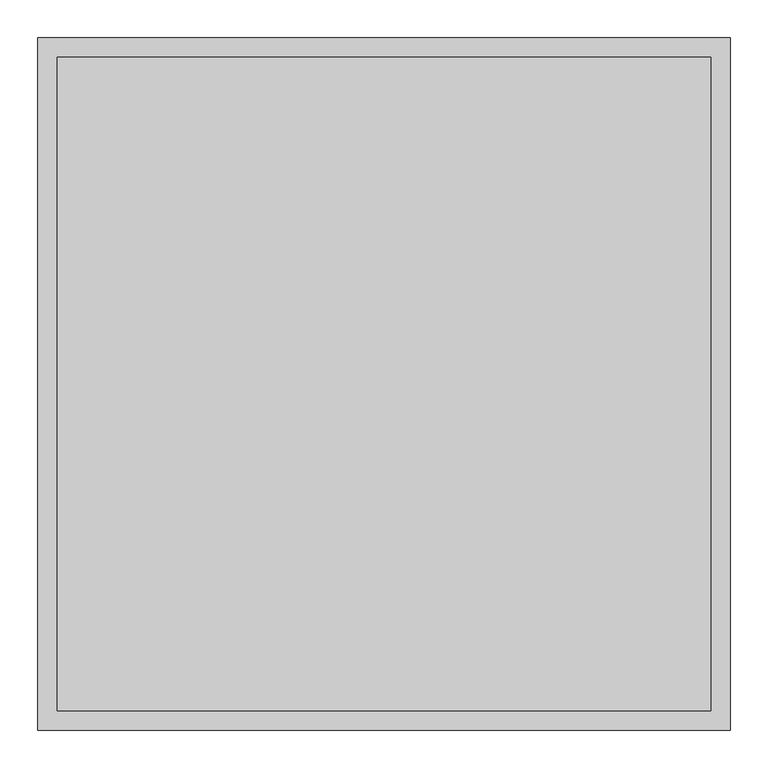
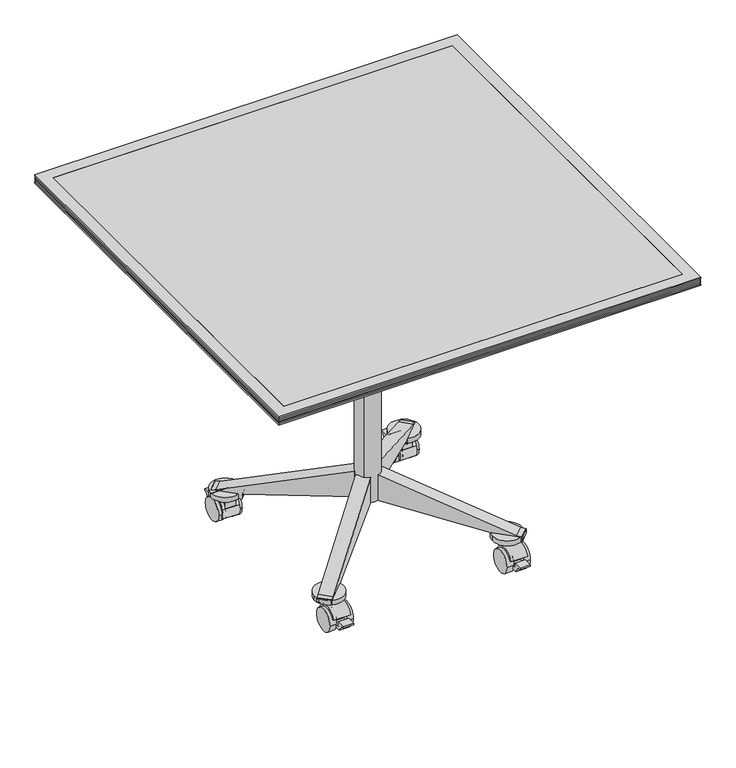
"""IFC4 building model written with IfcOpenShell, lengths in millimetres: furniture geometry, Coalesse_AM_Table_Conference_Ballet_Square : 36L x 36W - Fixed/Caster."""

import ifcopenshell
import ifcopenshell.guid

model = None  # the IFC model being written
_history = None  # IfcOwnerHistory: only IFC2X3 demands one
_inside = {}  # id of a spatial element -> (the spatial element, [elements in it])
_under = {}  # id of a project, library or spatial element -> (it, [spatial elements below it])
_declared = {}  # id of a project -> (the project, [libraries it declares])
_typed = {}  # id of a type object -> (the type object, [elements of that type])
_made_of = {}  # id of a material, layer set ... -> (it, [elements and type objects made of it])


def new_model(schema):
    """Start an empty IFC model of exactly this schema.

    Asked for "IFC4X3", IfcOpenShell would pick the latest addendum, in which some entities
    have other attributes; the version numbers below select the first issue.
    IFC2X3 requires an IfcOwnerHistory on every rooted entity: one is made here for all.
    """
    global model, _history
    if schema == "IFC4X3":
        model = ifcopenshell.file(schema_version=(4, 3, 0, 0))
    else:
        model = ifcopenshell.file(schema=schema)
    _inside.clear()
    _under.clear()
    _declared.clear()
    _typed.clear()
    _made_of.clear()
    _history = None
    if model.schema == "IFC2X3":
        org = make("IfcOrganization", Name="unknown")
        user = make(
            "IfcPersonAndOrganization",
            ThePerson=make("IfcPerson", FamilyName="unknown"),
            TheOrganization=org,
        )
        app = make(
            "IfcApplication",
            ApplicationDeveloper=org,
            Version="unknown",
            ApplicationFullName="unknown",
            ApplicationIdentifier="unknown",
        )
        _history = make(
            "IfcOwnerHistory",
            OwningUser=user,
            OwningApplication=app,
            ChangeAction="ADDED",
            CreationDate=0,
        )
    return model


def make(cls, **values):
    """One entity of the class cls with the attributes given. An attribute that is None is left unset."""
    return model.create_entity(
        cls, **{name: value for name, value in values.items() if value is not None}
    )


def rooted(cls, **values):
    """An entity with a GlobalId (a new one), such as an element, a storey or a relation."""
    return make(cls, GlobalId=ifcopenshell.guid.new(), OwnerHistory=_history, **values)


def si_unit(unit_type, name, prefix=None):
    """IfcSIUnit, for example si_unit("LENGTHUNIT", "METRE", prefix="MILLI")."""
    return make("IfcSIUnit", UnitType=unit_type, Prefix=prefix, Name=name)


def assignment(units):
    """IfcUnitAssignment: the units of a project."""
    return None if units is None else make("IfcUnitAssignment", Units=units)


def point(xyz):
    """IfcCartesianPoint."""
    return None if xyz is None else make("IfcCartesianPoint", Coordinates=xyz)


def direction(xyz):
    """IfcDirection."""
    return None if xyz is None else make("IfcDirection", DirectionRatios=xyz)


def frame(location, z_axis=None, x_axis=None):
    """IfcAxis2Placement3D, a coordinate frame: its origin and axes. An axis left out is left unset."""
    return make(
        "IfcAxis2Placement3D",
        Location=point(location),
        Axis=direction(z_axis),
        RefDirection=direction(x_axis),
    )


def frame_2d(location, x_axis=None):
    """IfcAxis2Placement2D, a coordinate frame in the plane: its origin and x axis."""
    return make(
        "IfcAxis2Placement2D", Location=point(location), RefDirection=direction(x_axis)
    )


def origin():
    """The frame at (0, 0, 0) with its axes left unset."""
    return frame((0.0, 0.0, 0.0))


def place(relative_to, where):
    """IfcLocalPlacement: puts the frame where relative to a parent placement (None: the world)."""
    return make(
        "IfcLocalPlacement", PlacementRelTo=relative_to, RelativePlacement=where
    )


def context(
    kind, dimensions, precision=None, world=None, true_north=None, identifier=None
):
    """IfcGeometricRepresentationContext, for example the 3D "Model" context."""
    return make(
        "IfcGeometricRepresentationContext",
        ContextIdentifier=identifier,
        ContextType=kind,
        CoordinateSpaceDimension=dimensions,
        Precision=precision,
        WorldCoordinateSystem=world,
        TrueNorth=true_north,
    )


def project(units=None, contexts=None):
    """IfcProject with its units and contexts."""
    return rooted(
        "IfcProject",
        Name="project",
        RepresentationContexts=contexts,
        UnitsInContext=assignment(units),
    )


def spatial(cls, under=None, at=None, **own):
    """A site, building, storey or space (cls), placed at a placement, below another one or the project."""
    s = rooted(cls, ObjectPlacement=at, **own)
    if under is not None:
        _under.setdefault(under.id(), (under, []))[1].append(s)
    return s


def polyline(points):
    """IfcPolyline through the points."""
    return make("IfcPolyline", Points=[point(p) for p in points])


def circle_curve(where, radius):
    """IfcCircle in the frame where."""
    return make("IfcCircle", Position=where, Radius=radius)


def trimmed(basis, trim1, trim2, sense, master):
    """IfcTrimmedCurve: the piece of a basis curve between two trims."""
    return make(
        "IfcTrimmedCurve",
        BasisCurve=basis,
        Trim1=trim1,
        Trim2=trim2,
        SenseAgreement=sense,
        MasterRepresentation=master,
    )


def segment(curve, same_sense, transition):
    """IfcCompositeCurveSegment."""
    return make(
        "IfcCompositeCurveSegment",
        Transition=transition,
        SameSense=same_sense,
        ParentCurve=curve,
    )


def composite_curve(segments, self_intersect=None):
    """IfcCompositeCurve: segments joined end to end."""
    return make("IfcCompositeCurve", Segments=segments, SelfIntersect=self_intersect)


def outline(outer, holes=None, kind="AREA"):
    """IfcArbitraryClosedProfileDef: a profile drawn as a closed curve; with holes, ...WithVoids."""
    if holes is None:
        return make("IfcArbitraryClosedProfileDef", ProfileType=kind, OuterCurve=outer)
    return make(
        "IfcArbitraryProfileDefWithVoids",
        ProfileType=kind,
        OuterCurve=outer,
        InnerCurves=holes,
    )


def extrude(swept, where, along, depth):
    """IfcExtrudedAreaSolid: the profile swept, set in the frame where, extruded along a direction by depth."""
    return make(
        "IfcExtrudedAreaSolid",
        SweptArea=swept,
        Position=where,
        ExtrudedDirection=direction(along),
        Depth=depth,
    )


def faces_of(points, faces, orient=None, outer=None):
    """IfcFace entities. A face is a list of loops; a loop is a list of indices into points, from 0.

    orient and outer hold one flag for each loop. By default every Orientation is true, the
    first loop of a face is its IfcFaceOuterBound and the others are IfcFaceBound.
    """
    made = []
    for i, loops in enumerate(faces):
        bounds = []
        for j, loop in enumerate(loops):
            is_outer = j == 0 if outer is None else outer[i][j]
            bounds.append(
                make(
                    "IfcFaceOuterBound" if is_outer else "IfcFaceBound",
                    Bound=make("IfcPolyLoop", Polygon=[points[k] for k in loop]),
                    Orientation=True if orient is None else orient[i][j],
                )
            )
        made.append(make("IfcFace", Bounds=bounds))
    return made


def faceted_brep(points, faces, orient=None, outer=None, voids=None):
    """IfcFacetedBrep: a solid bounded by flat faces; with voids (closed shells), ...WithVoids."""
    shared = [point(p) for p in points]
    hull = make("IfcClosedShell", CfsFaces=faces_of(shared, faces, orient, outer))
    if voids is None:
        return make("IfcFacetedBrep", Outer=hull)
    return make(
        "IfcFacetedBrepWithVoids",
        Outer=hull,
        Voids=[
            make(cls, CfsFaces=faces_of(shared, fs, o, b)) for cls, fs, o, b in voids
        ],
    )


def shape(context_of_items, identifier, shape_type, items):
    """IfcShapeRepresentation: the items that make up one representation, for example the "Body"."""
    return make(
        "IfcShapeRepresentation",
        ContextOfItems=context_of_items,
        RepresentationIdentifier=identifier,
        RepresentationType=shape_type,
        Items=items,
    )


def source(mapping_origin, context_of_items, identifier, shape_type, items):
    """IfcRepresentationMap: a shape defined once, which mapped items show again and again."""
    return make(
        "IfcRepresentationMap",
        MappingOrigin=mapping_origin,
        MappedRepresentation=shape(context_of_items, identifier, shape_type, items),
    )


def transform(
    local_origin,
    x_axis=None,
    y_axis=None,
    z_axis=None,
    scale=None,
    scale2=None,
    scale3=None,
    uniform=True,
):
    """IfcCartesianTransformationOperator3D, or its non-uniform kind. x_axis, y_axis, z_axis: its Axis1, 2, 3."""
    if uniform:
        return make(
            "IfcCartesianTransformationOperator3D",
            Axis1=direction(x_axis),
            Axis2=direction(y_axis),
            LocalOrigin=point(local_origin),
            Scale=scale,
            Axis3=direction(z_axis),
        )
    return make(
        "IfcCartesianTransformationOperator3DnonUniform",
        Axis1=direction(x_axis),
        Axis2=direction(y_axis),
        LocalOrigin=point(local_origin),
        Scale=scale,
        Axis3=direction(z_axis),
        Scale2=scale2,
        Scale3=scale3,
    )


def mapped(mapping_source, mapping_target):
    """IfcMappedItem: shows the shape of a source again, moved by a transform."""
    return make(
        "IfcMappedItem", MappingSource=mapping_source, MappingTarget=mapping_target
    )


def made_of(thing, what):
    """Note that an element or type object is made of a material, layer set ...; save() writes the relation."""
    if what is not None:
        _made_of.setdefault(what.id(), (what, []))[1].append(thing)
    return thing


def element(
    cls,
    number,
    at=None,
    inside=None,
    cuts=None,
    type_object=None,
    material=None,
    context=None,
    identifier="Body",
    shape_type=None,
    held_by="IfcProductDefinitionShape",
    body=None,
    shapes=None,
    **own,
):
    """One element of the class cls, such as IfcWall. Its Tag is "e" and its number.

    at: its placement. inside: the storey or other place that contains it. cuts: it is an
    opening in that element (IfcRelVoidsElement). A single representation is given by context,
    identifier, shape_type and body (its items); several are given by shapes. held_by: the class
    of the entity that holds the representations. save() writes the other relations.
    """
    e = rooted(cls, Tag="e%d" % number, ObjectPlacement=at, **own)
    if body is not None:
        shapes = [shape(context, identifier, shape_type, body)]
    if shapes is not None:
        e.Representation = make(held_by, Representations=shapes)
    if inside is not None:
        _inside.setdefault(inside.id(), (inside, []))[1].append(e)
    if cuts is not None:
        rooted(
            "IfcRelVoidsElement", RelatingBuildingElement=cuts, RelatedOpeningElement=e
        )
    if type_object is not None:
        _typed.setdefault(type_object.id(), (type_object, []))[1].append(e)
    return made_of(e, material)


def aggregate(whole, parts):
    """IfcRelAggregates: a whole, such as a stair, and the parts it consists of."""
    return rooted("IfcRelAggregates", RelatingObject=whole, RelatedObjects=parts)


def save(model, path):
    """Write the relations noted so far, then the file.

    IfcRelAggregates (storeys below a building ...), IfcRelContainedInSpatialStructure (elements
    in a storey), IfcRelDefinesByType, IfcRelAssociatesMaterial and IfcRelDeclares: one each for
    every whole, place, type object, material and project.
    """
    for whole, parts in _under.values():
        aggregate(whole, parts)
    for where, things in _inside.values():
        rooted(
            "IfcRelContainedInSpatialStructure",
            RelatedElements=things,
            RelatingStructure=where,
        )
    for kind, things in _typed.values():
        rooted("IfcRelDefinesByType", RelatedObjects=things, RelatingType=kind)
    for what, things in _made_of.values():
        rooted("IfcRelAssociatesMaterial", RelatedObjects=things, RelatingMaterial=what)
    for by, libraries in _declared.values():
        rooted("IfcRelDeclares", RelatingContext=by, RelatedDefinitions=libraries)
    model.write(path)


def furniture_688fecdd(model_context):
    return source(origin(), model_context, "Body", "SolidModel", [
        extrude(outline(composite_curve([segment(polyline([(-182.4395783, 14.7931869), (-185.3508649, 16.4051117)]), True, "CONTINUOUS"), segment(trimmed(circle_curve(frame_2d((-208.7663144, 24.9907393)), 24.9398531), [point((-185.3508649, 16.4051117))], [point((-231.2540436, 35.7749086))], True, "CARTESIAN"), True, "CONTINUOUS"), segment(polyline([(-231.2540436, 35.7749086), (-234.6796249, 36.8601197)]), True, "CONTINUOUS"), segment(trimmed(circle_curve(frame_2d((-209.4353674, 26.7032164)), 27.2109394), [point((-234.6796249, 36.8601197))], [point((-197.8152878, 51.3082762))], False, "CARTESIAN"), True, "CONTINUOUS"), segment(trimmed(circle_curve(frame_2d((-207.8788336, 25.8930561)), 27.3351124), [point((-197.8152878, 51.3082762))], [point((-182.4395783, 35.8956886))], False, "CARTESIAN"), True, "CONTINUOUS"), segment(trimmed(circle_curve(frame_2d((-209.2741105, 25.3444377)), 28.8343721), [point((-182.4395783, 35.8956886))], [point((-182.4395783, 14.7931869))], False, "CARTESIAN"), True, "CONTINUOUS")], self_intersect=False)), frame((174.0984431, 0.0, 0.0), z_axis=(1.0, 0.0, 0.0), x_axis=(0.0, 1.0, 0.0)), (0.0, 0.0, 1.0), 36.0286787),
        extrude(outline(composite_curve([segment(trimmed(circle_curve(frame_2d((-208.7663144, 24.9907393)), 24.9398531), [point((-233.7061675, 24.9907393))], [point((-183.8264612, 24.9907393))], False, "CARTESIAN"), True, "CONTINUOUS"), segment(trimmed(circle_curve(frame_2d((-208.7663144, 24.9907393)), 24.9398531), [point((-183.8264612, 24.9907393))], [point((-233.7061675, 24.9907393))], False, "CARTESIAN"), True, "CONTINUOUS")], self_intersect=False)), frame((166.2968952, 0.0, 0.0), z_axis=(1.0, 0.0, 0.0), x_axis=(0.0, 1.0, 0.0)), (0.0, 0.0, 1.0), 14.6120158),
        extrude(outline(composite_curve([segment(polyline([(-197.8152878, 63.5225277), (-182.4395783, 63.5225277), (-182.4395783, 35.8956886)]), True, "CONTINUOUS"), segment(trimmed(circle_curve(frame_2d((-209.2741105, 25.3444377)), 28.8343721), [point((-182.4395783, 35.8956886))], [point((-182.4395783, 14.7931869))], False, "CARTESIAN"), True, "CONTINUOUS"), segment(polyline([(-182.4395783, 14.7931869), (-195.904393, 22.2484025), (-198.9802659, 16.6930892)]), True, "CONTINUOUS"), segment(trimmed(circle_curve(frame_2d((-208.672695, 25.0010719)), 12.7658043), [point((-198.9802659, 16.6930892))], [point((-218.9375545, 17.4117096))], False, "CARTESIAN"), True, "CONTINUOUS"), segment(polyline([(-218.9375545, 17.4117096), (-244.706152, 17.4117096), (-253.6776476, 31.7691038), (-260.4030844, 31.7691038), (-260.4030844, 35.1210973), (-241.3530844, 35.1210973), (-241.3530844, 25.0010719), (-222.0637731, 25.0010719), (-219.8001714, 32.1463658), (-234.6796249, 36.8601197)]), True, "CONTINUOUS"), segment(trimmed(circle_curve(frame_2d((-209.4353674, 26.7032164)), 27.2109394), [point((-234.6796249, 36.8601197))], [point((-197.8152878, 51.3082762))], False, "CARTESIAN"), True, "CONTINUOUS"), segment(polyline([(-197.8152878, 51.3082762), (-197.8152878, 63.5225277)]), True, "CONTINUOUS")], self_intersect=False)), frame((179.2633359, 0.0, 0.0), z_axis=(1.0, 0.0, 0.0), x_axis=(0.0, 1.0, 0.0)), (0.0, 0.0, 1.0), 22.3970625),
        extrude(outline(composite_curve([segment(trimmed(circle_curve(frame_2d((-208.7663144, 24.9907393)), 24.9398531), [point((-233.7061675, 24.9907393))], [point((-183.8264612, 24.9907393))], False, "CARTESIAN"), True, "CONTINUOUS"), segment(trimmed(circle_curve(frame_2d((-208.7663144, 24.9907393)), 24.9398531), [point((-183.8264612, 24.9907393))], [point((-233.7061675, 24.9907393))], False, "CARTESIAN"), True, "CONTINUOUS")], self_intersect=False)), frame((203.3322938, 0.0, 0.0), z_axis=(1.0, 0.0, 0.0), x_axis=(0.0, 1.0, 0.0)), (0.0, 0.0, 1.0), 13.7103424),
        extrude(outline(composite_curve([segment(polyline([(-182.4395783, 14.7931869), (-185.3508649, 16.4051117)]), True, "CONTINUOUS"), segment(trimmed(circle_curve(frame_2d((-208.7663144, 24.9907393)), 24.9398531), [point((-185.3508649, 16.4051117))], [point((-231.2540436, 35.7749086))], True, "CARTESIAN"), True, "CONTINUOUS"), segment(polyline([(-231.2540436, 35.7749086), (-234.6796249, 36.8601197)]), True, "CONTINUOUS"), segment(trimmed(circle_curve(frame_2d((-209.4353674, 26.7032164)), 27.2109394), [point((-234.6796249, 36.8601197))], [point((-197.8152878, 51.3082762))], False, "CARTESIAN"), True, "CONTINUOUS"), segment(trimmed(circle_curve(frame_2d((-207.8788336, 25.8930561)), 27.3351124), [point((-197.8152878, 51.3082762))], [point((-182.4395783, 35.8956886))], False, "CARTESIAN"), True, "CONTINUOUS"), segment(trimmed(circle_curve(frame_2d((-209.2741105, 25.3444377)), 28.8343721), [point((-182.4395783, 35.8956886))], [point((-182.4395783, 14.7931869))], False, "CARTESIAN"), True, "CONTINUOUS")], self_intersect=False)), frame((-209.7070094, 0.0, 0.0), z_axis=(1.0, 0.0, 0.0), x_axis=(0.0, 1.0, 0.0)), (0.0, 0.0, 1.0), 36.86129),
        extrude(outline(composite_curve([segment(trimmed(circle_curve(frame_2d((-208.7663144, 24.9907393)), 24.9398531), [point((-233.7061675, 24.9907393))], [point((-183.8264612, 24.9907393))], False, "CARTESIAN"), True, "CONTINUOUS"), segment(trimmed(circle_curve(frame_2d((-208.7663144, 24.9907393)), 24.9398531), [point((-183.8264612, 24.9907393))], [point((-233.7061675, 24.9907393))], False, "CARTESIAN"), True, "CONTINUOUS")], self_intersect=False)), frame((-180.908911, 0.0, 0.0), z_axis=(1.0, 0.0, 0.0), x_axis=(0.0, 1.0, 0.0)), (0.0, 0.0, 1.0), 14.6120158),
        extrude(outline(composite_curve([segment(polyline([(-197.8152878, 63.5225277), (-182.4395783, 63.5225277), (-182.4395783, 35.8956886)]), True, "CONTINUOUS"), segment(trimmed(circle_curve(frame_2d((-209.2741105, 25.3444377)), 28.8343721), [point((-182.4395783, 35.8956886))], [point((-182.4395783, 14.7931869))], False, "CARTESIAN"), True, "CONTINUOUS"), segment(polyline([(-182.4395783, 14.7931869), (-195.904393, 22.2484025), (-198.9802659, 16.6930892)]), True, "CONTINUOUS"), segment(trimmed(circle_curve(frame_2d((-208.672695, 25.0010719)), 12.7658043), [point((-198.9802659, 16.6930892))], [point((-218.9375545, 17.4117096))], False, "CARTESIAN"), True, "CONTINUOUS"), segment(polyline([(-218.9375545, 17.4117096), (-244.706152, 17.4117096), (-253.6776476, 31.7691038), (-260.4030844, 31.7691038), (-260.4030844, 35.1210973), (-241.3530844, 35.1210973), (-241.3530844, 25.0010719), (-222.0637731, 25.0010719), (-219.8001714, 32.1463658), (-234.6796249, 36.8601197)]), True, "CONTINUOUS"), segment(trimmed(circle_curve(frame_2d((-209.4353674, 26.7032164)), 27.2109394), [point((-234.6796249, 36.8601197))], [point((-197.8152878, 51.3082762))], False, "CARTESIAN"), True, "CONTINUOUS"), segment(polyline([(-197.8152878, 51.3082762), (-197.8152878, 63.5225277)]), True, "CONTINUOUS")], self_intersect=False)), frame((-203.3322938, 0.0, 0.0), z_axis=(1.0, 0.0, 0.0), x_axis=(0.0, 1.0, 0.0)), (0.0, 0.0, 1.0), 22.4233828),
        extrude(outline(composite_curve([segment(trimmed(circle_curve(frame_2d((-208.7663144, 24.9907393)), 24.9398531), [point((-233.7061675, 24.9907393))], [point((-183.8264612, 24.9907393))], False, "CARTESIAN"), True, "CONTINUOUS"), segment(trimmed(circle_curve(frame_2d((-208.7663144, 24.9907393)), 24.9398531), [point((-183.8264612, 24.9907393))], [point((-233.7061675, 24.9907393))], False, "CARTESIAN"), True, "CONTINUOUS")], self_intersect=False)), frame((-217.0426362, 0.0, 0.0), z_axis=(1.0, 0.0, 0.0), x_axis=(0.0, 1.0, 0.0)), (0.0, 0.0, 1.0), 13.7103424),
        extrude(outline(composite_curve([segment(polyline([(-37.2834365, 26.9246599), (-26.8661847, 37.3419116)]), True, "CONTINUOUS"), segment(trimmed(circle_curve(frame_2d((0.0745836, 10.4011432)), 38.1), [point((-26.8661847, 37.3419116))], [point((27.015352, 37.3419116))], False, "CARTESIAN"), True, "CONTINUOUS"), segment(polyline([(27.015352, 37.3419116), (38.9313594, 25.4259042)]), True, "CONTINUOUS"), segment(trimmed(circle_curve(frame_2d((13.4893466, -0.0161085)), 35.9804395), [point((38.9313594, 25.4259042))], [point((38.9313594, -25.4581212))], False, "CARTESIAN"), True, "CONTINUOUS"), segment(polyline([(38.9313594, -25.4581212), (27.015352, -37.3741286)]), True, "CONTINUOUS"), segment(trimmed(circle_curve(frame_2d((0.0745836, -10.4333602)), 38.1), [point((27.015352, -37.3741286))], [point((-26.8661847, -37.3741286))], False, "CARTESIAN"), True, "CONTINUOUS"), segment(polyline([(-26.8661847, -37.3741286), (-37.2834365, -26.9568769)]), True, "CONTINUOUS"), segment(trimmed(circle_curve(frame_2d((-10.3426681, -0.0161085)), 38.1), [point((-37.2834365, -26.9568769))], [point((-37.2834365, 26.9246599))], False, "CARTESIAN"), True, "CONTINUOUS")], self_intersect=False)), frame((0.0, 0.0, 607.6784119), z_axis=(0.0, 0.0, 1.0), x_axis=(1.0, 0.0, 0.0)), (0.0, 0.0, 1.0), 50.3081696),
        extrude(outline(composite_curve([segment(polyline([(-81.1409418, 49.3084633), (-49.5692956, 80.8801095)]), True, "CONTINUOUS"), segment(trimmed(circle_curve(frame_2d((0.0, 156.1108358)), 90.0931587), [point((-49.5692956, 80.8801095))], [point((49.871233, 81.0799264))], True, "CARTESIAN"), True, "CONTINUOUS"), segment(polyline([(49.871233, 81.0799264), (81.1309866, 49.8201728)]), True, "CONTINUOUS"), segment(trimmed(circle_curve(frame_2d((153.3620811, 0.0)), 87.7461145), [point((81.1309866, 49.8201728))], [point((81.7629451, -50.7241989))], True, "CARTESIAN"), True, "CONTINUOUS"), segment(polyline([(81.7629451, -50.7241989), (50.5881651, -81.8989789)]), True, "CONTINUOUS"), segment(trimmed(circle_curve(frame_2d((0.0, -154.7295322)), 88.6761069), [point((50.5881651, -81.8989789))], [point((-51.0893198, -82.2496499))], True, "CARTESIAN"), True, "CONTINUOUS"), segment(polyline([(-51.0893198, -82.2496499), (-82.3248918, -51.014078)]), True, "CONTINUOUS"), segment(trimmed(circle_curve(frame_2d((-153.9959305, 0.0)), 87.9725749), [point((-82.3248918, -51.014078))], [point((-81.1409418, 49.3084633))], True, "CARTESIAN"), True, "CONTINUOUS")], self_intersect=False)), frame((0.0, 0.0, 635.3095602), z_axis=(0.0, 0.0, 1.0), x_axis=(1.0, 0.0, 0.0)), (0.0, 0.0, 1.0), 22.6770213),
        extrude(outline(composite_curve([segment(polyline([(113.5341679, 0.0), (115.2899262, -10.0922386)]), True, "CONTINUOUS"), segment(trimmed(circle_curve(frame_2d((109.4715659, -11.1181725)), 5.9081179), [point((115.2899262, -10.0922386))], [point((112.4302147, -16.2321))], False, "CARTESIAN"), True, "CONTINUOUS"), segment(trimmed(circle_curve(frame_2d((-123.0846109, 390.8475551)), 470.2989248), [point((112.4302147, -16.2321))], [point((-41.0580682, -72.2428518))], False, "CARTESIAN"), True, "CONTINUOUS"), segment(trimmed(circle_curve(frame_2d((-123.0846109, 390.8475551)), 470.2989248), [point((-41.0580682, -72.2428518))], [point((-66.3016738, -76.0108568))], False, "CARTESIAN"), True, "CONTINUOUS"), segment(trimmed(circle_curve(frame_2d((-64.5252058, -90.6166359)), 14.7134164), [point((-66.3016738, -76.0108568))], [point((-76.8966336, -82.6521903))], True, "CARTESIAN"), True, "CONTINUOUS"), segment(trimmed(circle_curve(frame_2d((-64.5252058, -90.6166359)), 14.7134164), [point((-76.8966336, -82.6521903))], [point((-79.0128702, -93.1841644))], True, "CARTESIAN"), True, "CONTINUOUS"), segment(trimmed(circle_curve(frame_2d((-82.4193718, -93.7878704)), 3.4595829), [point((-79.0128702, -93.1841644))], [point((-81.5814971, -97.144458))], False, "CARTESIAN"), True, "CONTINUOUS"), segment(polyline([(-81.5814971, -97.144458), (-160.8938241, -97.144458)]), True, "CONTINUOUS"), segment(trimmed(circle_curve(frame_2d((-160.0559494, -93.7878704)), 3.4595829), [point((-160.8938241, -97.144458))], [point((-163.462451, -93.1841644))], False, "CARTESIAN"), True, "CONTINUOUS"), segment(trimmed(circle_curve(frame_2d((-177.9501154, -90.6166359)), 14.7134164), [point((-163.462451, -93.1841644))], [point((-165.5786876, -82.6521903))], True, "CARTESIAN"), True, "CONTINUOUS"), segment(trimmed(circle_curve(frame_2d((-177.9501154, -90.6166359)), 14.7134164), [point((-165.5786876, -82.6521903))], [point((-176.1736474, -76.0108568))], True, "CARTESIAN"), True, "CONTINUOUS"), segment(trimmed(circle_curve(frame_2d((-119.3907103, 390.8475551)), 470.2989248), [point((-176.1736474, -76.0108568))], [point((-201.417253, -72.2428518))], False, "CARTESIAN"), True, "CONTINUOUS"), segment(trimmed(circle_curve(frame_2d((-119.3907103, 390.8475551)), 470.2989248), [point((-201.417253, -72.2428518))], [point((-354.9055359, -16.2321))], False, "CARTESIAN"), True, "CONTINUOUS"), segment(trimmed(circle_curve(frame_2d((-351.9468871, -11.1181725)), 5.9081179), [point((-354.9055359, -16.2321))], [point((-357.7652474, -10.0922386))], False, "CARTESIAN"), True, "CONTINUOUS"), segment(polyline([(-357.7652474, -10.0922386), (-355.9857135, 0.0679469), (-243.7205553, 0.0679469)]), True, "CONTINUOUS"), segment(trimmed(circle_curve(frame_2d((-184.2805603, 14.4713039)), 61.1601971), [point((-243.7205553, 0.0679469))], [point((-195.8898677, -45.5769575))], True, "CARTESIAN"), True, "CONTINUOUS"), segment(trimmed(circle_curve(frame_2d((-133.6508876, 282.6884214)), 334.1135281), [point((-195.8898677, -45.5769575))], [point((-152.1077021, -50.9149293))], True, "CARTESIAN"), True, "CONTINUOUS"), segment(trimmed(circle_curve(frame_2d((-151.5110625, -39.8460589)), 11.0849389), [point((-152.1077021, -50.9149293))], [point((-142.3165925, -46.0377945))], True, "CARTESIAN"), True, "CONTINUOUS"), segment(polyline([(-142.3165925, -46.0377945), (-100.193637, -46.0377945)]), True, "CONTINUOUS"), segment(trimmed(circle_curve(frame_2d((-91.0046411, -39.8584423)), 11.0734837), [point((-100.193637, -46.0377945))], [point((-90.2559551, -50.9065873))], True, "CARTESIAN"), True, "CONTINUOUS"), segment(trimmed(circle_curve(frame_2d((-108.7814051, 282.6895624)), 334.1101367), [point((-90.2559551, -50.9065873))], [point((-46.5723215, -45.5780317))], True, "CARTESIAN"), True, "CONTINUOUS"), segment(trimmed(circle_curve(frame_2d((-58.1722458, 14.4515716)), 61.1400975), [point((-46.5723215, -45.5780317))], [point((1.2353597, 0.0))], True, "CARTESIAN"), True, "CONTINUOUS"), segment(polyline([(1.2353597, 0.0), (113.5341679, 0.0)]), True, "CONTINUOUS")], self_intersect=False)), frame((-101.3833789, 70.072565, 704.85), z_axis=(0.7071067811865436, 0.7071067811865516, 0.0), x_axis=(-0.7071067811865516, 0.7071067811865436, 0.0)), (0.0, 0.0, 1.0), 44.2801776),
        extrude(outline(composite_curve([segment(polyline([(112.2651581, 0.0), (114.044692, -10.1601855)]), True, "CONTINUOUS"), segment(trimmed(circle_curve(frame_2d((108.2263318, -11.1861194)), 5.9081179), [point((114.044692, -10.1601855))], [point((111.1849806, -16.3000469))], False, "CARTESIAN"), True, "CONTINUOUS"), segment(trimmed(circle_curve(frame_2d((-124.3298451, 390.7796082)), 470.2989248), [point((111.1849806, -16.3000469))], [point((-42.3033023, -72.3107987))], False, "CARTESIAN"), True, "CONTINUOUS"), segment(trimmed(circle_curve(frame_2d((-124.3298451, 390.7796082)), 470.2989248), [point((-42.3033023, -72.3107987))], [point((-67.5469079, -76.0788037))], False, "CARTESIAN"), True, "CONTINUOUS"), segment(trimmed(circle_curve(frame_2d((-65.77044, -90.6845828)), 14.7134164), [point((-67.5469079, -76.0788037))], [point((-78.1418678, -82.7201372))], True, "CARTESIAN"), True, "CONTINUOUS"), segment(trimmed(circle_curve(frame_2d((-65.77044, -90.6845828)), 14.7134164), [point((-78.1418678, -82.7201372))], [point((-80.2581043, -93.2521113))], True, "CARTESIAN"), True, "CONTINUOUS"), segment(trimmed(circle_curve(frame_2d((-83.6646059, -93.8558173)), 3.4595829), [point((-80.2581043, -93.2521113))], [point((-82.8267313, -97.2124049))], False, "CARTESIAN"), True, "CONTINUOUS"), segment(polyline([(-82.8267313, -97.2124049), (-162.1390582, -97.2124049)]), True, "CONTINUOUS"), segment(trimmed(circle_curve(frame_2d((-161.3011835, -93.8558173)), 3.4595829), [point((-162.1390582, -97.2124049))], [point((-164.7076852, -93.2521113))], False, "CARTESIAN"), True, "CONTINUOUS"), segment(trimmed(circle_curve(frame_2d((-179.1953495, -90.6845828)), 14.7134164), [point((-164.7076852, -93.2521113))], [point((-166.8239217, -82.7201372))], True, "CARTESIAN"), True, "CONTINUOUS"), segment(trimmed(circle_curve(frame_2d((-179.1953495, -90.6845828)), 14.7134164), [point((-166.8239217, -82.7201372))], [point((-177.4188815, -76.0788037))], True, "CARTESIAN"), True, "CONTINUOUS"), segment(trimmed(circle_curve(frame_2d((-120.6359444, 390.7796082)), 470.2989248), [point((-177.4188815, -76.0788037))], [point((-202.6624871, -72.3107987))], False, "CARTESIAN"), True, "CONTINUOUS"), segment(trimmed(circle_curve(frame_2d((-120.6359444, 390.7796082)), 470.2989248), [point((-202.6624871, -72.3107987))], [point((-356.1507701, -16.3000469))], False, "CARTESIAN"), True, "CONTINUOUS"), segment(trimmed(circle_curve(frame_2d((-353.1921213, -11.1861194)), 5.9081179), [point((-356.1507701, -16.3000469))], [point((-359.0104815, -10.1601855))], False, "CARTESIAN"), True, "CONTINUOUS"), segment(polyline([(-359.0104815, -10.1601855), (-357.2547233, -0.0679469), (-244.955915, -0.0679469)]), True, "CONTINUOUS"), segment(trimmed(circle_curve(frame_2d((-185.5483095, 14.3836247)), 61.1400975), [point((-244.955915, -0.0679469))], [point((-197.1482338, -45.6459786))], True, "CARTESIAN"), True, "CONTINUOUS"), segment(trimmed(circle_curve(frame_2d((-134.9391503, 282.6216155)), 334.1101367), [point((-197.1482338, -45.6459786))], [point((-153.4646002, -50.9745342))], True, "CARTESIAN"), True, "CONTINUOUS"), segment(trimmed(circle_curve(frame_2d((-152.7159142, -39.9263892)), 11.0734837), [point((-153.4646002, -50.9745342))], [point((-143.5269184, -46.1057414))], True, "CARTESIAN"), True, "CONTINUOUS"), segment(polyline([(-143.5269184, -46.1057414), (-101.4039629, -46.1057414)]), True, "CONTINUOUS"), segment(trimmed(circle_curve(frame_2d((-92.2094928, -39.9140058)), 11.0849389), [point((-101.4039629, -46.1057414))], [point((-91.6128533, -50.9828762))], True, "CARTESIAN"), True, "CONTINUOUS"), segment(trimmed(circle_curve(frame_2d((-110.0696677, 282.6204745)), 334.1135281), [point((-91.6128533, -50.9828762))], [point((-47.8306877, -45.6449044))], True, "CARTESIAN"), True, "CONTINUOUS"), segment(trimmed(circle_curve(frame_2d((-59.4399951, 14.403357)), 61.1601971), [point((-47.8306877, -45.6449044))], [point((0.0, 0.0))], True, "CARTESIAN"), True, "CONTINUOUS"), segment(polyline([(0.0, 0.0), (112.2651581, 0.0)]), True, "CONTINUOUS")], self_intersect=False)), frame((-70.9530785, -102.2638924, 704.9179469), z_axis=(-0.707106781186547, 0.7071067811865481, 0.0), x_axis=(-0.7071067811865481, -0.707106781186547, 0.0)), (0.0, 0.0, 1.0), 44.2801776),
        extrude(outline(composite_curve([segment(trimmed(circle_curve(frame_2d((209.2741105, 25.3444377)), 28.8343721), [point((182.4395783, 14.7931869))], [point((182.4395783, 35.8956886))], False, "CARTESIAN"), True, "CONTINUOUS"), segment(trimmed(circle_curve(frame_2d((207.8788336, 25.8930561)), 27.3351124), [point((182.4395783, 35.8956886))], [point((197.8152878, 51.3082762))], False, "CARTESIAN"), True, "CONTINUOUS"), segment(trimmed(circle_curve(frame_2d((209.4353674, 26.7032164)), 27.2109394), [point((197.8152878, 51.3082762))], [point((234.6796249, 36.8601197))], False, "CARTESIAN"), True, "CONTINUOUS"), segment(polyline([(234.6796249, 36.8601197), (231.2540436, 35.7749086)]), True, "CONTINUOUS"), segment(trimmed(circle_curve(frame_2d((208.7663144, 24.9907393)), 24.9398531), [point((231.2540436, 35.7749086))], [point((185.3508649, 16.4051117))], True, "CARTESIAN"), True, "CONTINUOUS"), segment(polyline([(185.3508649, 16.4051117), (182.4395783, 14.7931869)]), True, "CONTINUOUS")], self_intersect=False)), frame((174.0984431, 0.0, 0.0), z_axis=(1.0, 0.0, 0.0), x_axis=(0.0, 1.0, 0.0)), (0.0, 0.0, 1.0), 36.0286787),
        extrude(outline(composite_curve([segment(trimmed(circle_curve(frame_2d((208.7663144, 24.9907393)), 24.9398531), [point((233.7061675, 24.9907393))], [point((183.8264612, 24.9907393))], False, "CARTESIAN"), True, "CONTINUOUS"), segment(trimmed(circle_curve(frame_2d((208.7663144, 24.9907393)), 24.9398531), [point((183.8264612, 24.9907393))], [point((233.7061675, 24.9907393))], False, "CARTESIAN"), True, "CONTINUOUS")], self_intersect=False)), frame((166.2968952, 0.0, 0.0), z_axis=(1.0, 0.0, 0.0), x_axis=(0.0, 1.0, 0.0)), (0.0, 0.0, 1.0), 14.6120158),
        extrude(outline(composite_curve([segment(polyline([(197.8152878, 63.5225277), (197.8152878, 51.3082762)]), True, "CONTINUOUS"), segment(trimmed(circle_curve(frame_2d((209.4353674, 26.7032164)), 27.2109394), [point((197.8152878, 51.3082762))], [point((234.6796249, 36.8601197))], False, "CARTESIAN"), True, "CONTINUOUS"), segment(polyline([(234.6796249, 36.8601197), (219.8001714, 32.1463658), (222.0637731, 25.0010719), (241.3530844, 25.0010719), (241.3530844, 35.1210973), (260.4030844, 35.1210973), (260.4030844, 31.7691038), (253.6776476, 31.7691038), (244.706152, 17.4117096), (218.9375545, 17.4117096)]), True, "CONTINUOUS"), segment(trimmed(circle_curve(frame_2d((208.672695, 25.0010719)), 12.7658043), [point((218.9375545, 17.4117096))], [point((198.9802659, 16.6930892))], False, "CARTESIAN"), True, "CONTINUOUS"), segment(polyline([(198.9802659, 16.6930892), (195.904393, 22.2484025), (182.4395783, 14.7931869)]), True, "CONTINUOUS"), segment(trimmed(circle_curve(frame_2d((209.2741105, 25.3444377)), 28.8343721), [point((182.4395783, 14.7931869))], [point((182.4395783, 35.8956886))], False, "CARTESIAN"), True, "CONTINUOUS"), segment(polyline([(182.4395783, 35.8956886), (182.4395783, 63.5225277), (197.8152878, 63.5225277)]), True, "CONTINUOUS")], self_intersect=False)), frame((179.2633359, 0.0, 0.0), z_axis=(1.0, 0.0, 0.0), x_axis=(0.0, 1.0, 0.0)), (0.0, 0.0, 1.0), 22.3970625),
        extrude(outline(composite_curve([segment(trimmed(circle_curve(frame_2d((208.7663144, 24.9907393)), 24.9398531), [point((233.7061675, 24.9907393))], [point((183.8264612, 24.9907393))], False, "CARTESIAN"), True, "CONTINUOUS"), segment(trimmed(circle_curve(frame_2d((208.7663144, 24.9907393)), 24.9398531), [point((183.8264612, 24.9907393))], [point((233.7061675, 24.9907393))], False, "CARTESIAN"), True, "CONTINUOUS")], self_intersect=False)), frame((203.3322938, 0.0, 0.0), z_axis=(1.0, 0.0, 0.0), x_axis=(0.0, 1.0, 0.0)), (0.0, 0.0, 1.0), 13.7103424),
        extrude(outline(composite_curve([segment(trimmed(circle_curve(frame_2d((209.2741105, 25.3444377)), 28.8343721), [point((182.4395783, 14.7931869))], [point((182.4395783, 35.8956886))], False, "CARTESIAN"), True, "CONTINUOUS"), segment(trimmed(circle_curve(frame_2d((207.8788336, 25.8930561)), 27.3351124), [point((182.4395783, 35.8956886))], [point((197.8152878, 51.3082762))], False, "CARTESIAN"), True, "CONTINUOUS"), segment(trimmed(circle_curve(frame_2d((209.4353674, 26.7032164)), 27.2109394), [point((197.8152878, 51.3082762))], [point((234.6796249, 36.8601197))], False, "CARTESIAN"), True, "CONTINUOUS"), segment(polyline([(234.6796249, 36.8601197), (231.2540436, 35.7749086)]), True, "CONTINUOUS"), segment(trimmed(circle_curve(frame_2d((208.7663144, 24.9907393)), 24.9398531), [point((231.2540436, 35.7749086))], [point((185.3508649, 16.4051117))], True, "CARTESIAN"), True, "CONTINUOUS"), segment(polyline([(185.3508649, 16.4051117), (182.4395783, 14.7931869)]), True, "CONTINUOUS")], self_intersect=False)), frame((-209.7070094, 0.0, 0.0), z_axis=(1.0, 0.0, 0.0), x_axis=(0.0, 1.0, 0.0)), (0.0, 0.0, 1.0), 36.86129),
        extrude(outline(composite_curve([segment(trimmed(circle_curve(frame_2d((208.7663144, 24.9907393)), 24.9398531), [point((233.7061675, 24.9907393))], [point((183.8264612, 24.9907393))], False, "CARTESIAN"), True, "CONTINUOUS"), segment(trimmed(circle_curve(frame_2d((208.7663144, 24.9907393)), 24.9398531), [point((183.8264612, 24.9907393))], [point((233.7061675, 24.9907393))], False, "CARTESIAN"), True, "CONTINUOUS")], self_intersect=False)), frame((-180.908911, 0.0, 0.0), z_axis=(1.0, 0.0, 0.0), x_axis=(0.0, 1.0, 0.0)), (0.0, 0.0, 1.0), 14.6120158),
        extrude(outline(composite_curve([segment(polyline([(197.8152878, 63.5225277), (197.8152878, 51.3082762)]), True, "CONTINUOUS"), segment(trimmed(circle_curve(frame_2d((209.4353674, 26.7032164)), 27.2109394), [point((197.8152878, 51.3082762))], [point((234.6796249, 36.8601197))], False, "CARTESIAN"), True, "CONTINUOUS"), segment(polyline([(234.6796249, 36.8601197), (219.8001714, 32.1463658), (222.0637731, 25.0010719), (241.3530844, 25.0010719), (241.3530844, 35.1210973), (260.4030844, 35.1210973), (260.4030844, 31.7691038), (253.6776476, 31.7691038), (244.706152, 17.4117096), (218.9375545, 17.4117096)]), True, "CONTINUOUS"), segment(trimmed(circle_curve(frame_2d((208.672695, 25.0010719)), 12.7658043), [point((218.9375545, 17.4117096))], [point((198.9802659, 16.6930892))], False, "CARTESIAN"), True, "CONTINUOUS"), segment(polyline([(198.9802659, 16.6930892), (195.904393, 22.2484025), (182.4395783, 14.7931869)]), True, "CONTINUOUS"), segment(trimmed(circle_curve(frame_2d((209.2741105, 25.3444377)), 28.8343721), [point((182.4395783, 14.7931869))], [point((182.4395783, 35.8956886))], False, "CARTESIAN"), True, "CONTINUOUS"), segment(polyline([(182.4395783, 35.8956886), (182.4395783, 63.5225277), (197.8152878, 63.5225277)]), True, "CONTINUOUS")], self_intersect=False)), frame((-203.3322938, 0.0, 0.0), z_axis=(1.0, 0.0, 0.0), x_axis=(0.0, 1.0, 0.0)), (0.0, 0.0, 1.0), 22.4233828),
        extrude(outline(composite_curve([segment(trimmed(circle_curve(frame_2d((208.7663144, 24.9907393)), 24.9398531), [point((233.7061675, 24.9907393))], [point((183.8264612, 24.9907393))], False, "CARTESIAN"), True, "CONTINUOUS"), segment(trimmed(circle_curve(frame_2d((208.7663144, 24.9907393)), 24.9398531), [point((183.8264612, 24.9907393))], [point((233.7061675, 24.9907393))], False, "CARTESIAN"), True, "CONTINUOUS")], self_intersect=False)), frame((-217.0426362, 0.0, 0.0), z_axis=(1.0, 0.0, 0.0), x_axis=(0.0, 1.0, 0.0)), (0.0, 0.0, 1.0), 13.7103424),
        extrude(outline(composite_curve([segment(trimmed(circle_curve(frame_2d((-194.715793, 197.3207687)), 31.75), [point((-226.465793, 197.3207687))], [point((-162.965793, 197.3207687))], False, "CARTESIAN"), True, "CONTINUOUS"), segment(trimmed(circle_curve(frame_2d((-194.715793, 197.3207687)), 31.75), [point((-162.965793, 197.3207687))], [point((-226.465793, 197.3207687))], False, "CARTESIAN"), True, "CONTINUOUS")], self_intersect=False)), frame((0.0, 0.0, 62.0397209), z_axis=(0.0, 0.0, 1.0), x_axis=(1.0, 0.0, 0.0)), (0.0, 0.0, 1.0), 10.7840801),
        extrude(outline(composite_curve([segment(trimmed(circle_curve(frame_2d((191.7194605, 196.5270187)), 31.75), [point((159.9694605, 196.5270187))], [point((223.4694605, 196.5270187))], False, "CARTESIAN"), True, "CONTINUOUS"), segment(trimmed(circle_curve(frame_2d((191.7194605, 196.5270187)), 31.75), [point((223.4694605, 196.5270187))], [point((159.9694605, 196.5270187))], False, "CARTESIAN"), True, "CONTINUOUS")], self_intersect=False)), frame((0.0, 0.0, 62.0397209), z_axis=(0.0, 0.0, 1.0), x_axis=(1.0, 0.0, 0.0)), (0.0, 0.0, 1.0), 10.7840801),
        extrude(outline(composite_curve([segment(trimmed(circle_curve(frame_2d((-194.715793, -191.2787692)), 31.75), [point((-226.465793, -191.2787692))], [point((-162.965793, -191.2787692))], False, "CARTESIAN"), True, "CONTINUOUS"), segment(trimmed(circle_curve(frame_2d((-194.715793, -191.2787692)), 31.75), [point((-162.965793, -191.2787692))], [point((-226.465793, -191.2787692))], False, "CARTESIAN"), True, "CONTINUOUS")], self_intersect=False)), frame((0.0, 0.0, 62.0397209), z_axis=(0.0, 0.0, 1.0), x_axis=(1.0, 0.0, 0.0)), (0.0, 0.0, 1.0), 10.7840801),
        extrude(outline(composite_curve([segment(trimmed(circle_curve(frame_2d((191.7194605, -190.4850192)), 31.75), [point((159.9694605, -190.4850192))], [point((223.4694605, -190.4850192))], False, "CARTESIAN"), True, "CONTINUOUS"), segment(trimmed(circle_curve(frame_2d((191.7194605, -190.4850192)), 31.75), [point((223.4694605, -190.4850192))], [point((159.9694605, -190.4850192))], False, "CARTESIAN"), True, "CONTINUOUS")], self_intersect=False)), frame((0.0, 0.0, 62.0397209), z_axis=(0.0, 0.0, 1.0), x_axis=(1.0, 0.0, 0.0)), (0.0, 0.0, 1.0), 10.7840801),
        extrude(outline(composite_curve([segment(polyline([(-57.749273, 0.0), (0.0, 0.0), (-90.9931074, -269.8641919), (-92.3030079, -279.1846177)]), True, "CONTINUOUS"), segment(trimmed(circle_curve(frame_2d((-93.9206951, -278.9572666)), 1.6335852), [point((-92.3030079, -279.1846177))], [point((-93.8206014, -280.5877823))], False, "CARTESIAN"), True, "CONTINUOUS"), segment(trimmed(circle_curve(frame_2d((-95.8523928, -247.4901147)), 33.1599725), [point((-93.8206014, -280.5877823))], [point((-101.682402, -280.1335639))], False, "CARTESIAN"), True, "CONTINUOUS"), segment(trimmed(circle_curve(frame_2d((-101.2796868, -277.8786768)), 2.2905666), [point((-101.682402, -280.1335639))], [point((-103.5674671, -277.7657306))], False, "CARTESIAN"), True, "CONTINUOUS"), segment(polyline([(-103.5674671, -277.7657306), (-103.5674671, -222.4322812)]), True, "CONTINUOUS"), segment(trimmed(circle_curve(frame_2d((-100.6154331, -221.9840334)), 2.9858719), [point((-103.5674671, -222.4322812))], [point((-100.2998684, -219.0148838))], False, "CARTESIAN"), True, "CONTINUOUS"), segment(trimmed(circle_curve(frame_2d((-98.3053249, -200.2482144)), 18.872363), [point((-100.2998684, -219.0148838))], [point((-94.5016021, -218.7332835))], True, "CARTESIAN"), True, "CONTINUOUS"), segment(trimmed(circle_curve(frame_2d((-95.1495986, -215.5841949)), 3.2150673), [point((-94.5016021, -218.7332835))], [point((-91.9741141, -216.0871422))], True, "CARTESIAN"), True, "CONTINUOUS"), segment(polyline([(-91.9741141, -216.0871422), (-57.749273, 0.0)]), True, "CONTINUOUS")], self_intersect=False)), frame((-23.5273141, 7.7834997, 165.607188), z_axis=(0.7071067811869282, 0.707106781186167, 0.0), x_axis=(0.0, 0.0, 1.0)), (0.0, 0.0, 1.0), 29.2174476),
        extrude(outline(composite_curve([segment(polyline([(-57.749273, 44.2801775), (-91.9741141, 260.3673198)]), True, "CONTINUOUS"), segment(trimmed(circle_curve(frame_2d((-95.1495986, 259.8643724)), 3.2150673), [point((-91.9741141, 260.3673198))], [point((-94.5016021, 263.013461))], True, "CARTESIAN"), True, "CONTINUOUS"), segment(trimmed(circle_curve(frame_2d((-98.3053249, 244.5283919)), 18.872363), [point((-94.5016021, 263.013461))], [point((-100.2998684, 263.2950613))], True, "CARTESIAN"), True, "CONTINUOUS"), segment(trimmed(circle_curve(frame_2d((-100.6154331, 266.2642109)), 2.9858719), [point((-100.2998684, 263.2950613))], [point((-103.5674671, 266.7124587))], False, "CARTESIAN"), True, "CONTINUOUS"), segment(polyline([(-103.5674671, 266.7124587), (-103.5674671, 322.0459081)]), True, "CONTINUOUS"), segment(trimmed(circle_curve(frame_2d((-101.2796868, 322.1588543)), 2.2905666), [point((-103.5674671, 322.0459081))], [point((-101.682402, 324.4137415))], False, "CARTESIAN"), True, "CONTINUOUS"), segment(trimmed(circle_curve(frame_2d((-95.8523928, 291.7702923)), 33.1599725), [point((-101.682402, 324.4137415))], [point((-93.8206014, 324.8679598))], False, "CARTESIAN"), True, "CONTINUOUS"), segment(trimmed(circle_curve(frame_2d((-93.9206951, 323.2374442)), 1.6335852), [point((-93.8206014, 324.8679598))], [point((-92.3030079, 323.4647953))], False, "CARTESIAN"), True, "CONTINUOUS"), segment(polyline([(-92.3030079, 323.4647953), (-90.9931074, 314.1443694), (0.0, 44.2801775), (-57.749273, 44.2801775)]), True, "CONTINUOUS")], self_intersect=False)), frame((-23.5273141, 7.7834997, 165.607188), z_axis=(0.7071067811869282, 0.707106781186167, 0.0), x_axis=(0.0, 0.0, 1.0)), (0.0, 0.0, 1.0), 29.2174476),
        extrude(outline(composite_curve([segment(polyline([(-57.749273, 0.0), (0.0, 0.0), (-90.9931074, -269.8641919), (-92.3030079, -279.1846177)]), True, "CONTINUOUS"), segment(trimmed(circle_curve(frame_2d((-93.9206951, -278.9572666)), 1.6335852), [point((-92.3030079, -279.1846177))], [point((-93.8206014, -280.5877823))], False, "CARTESIAN"), True, "CONTINUOUS"), segment(trimmed(circle_curve(frame_2d((-95.8523928, -247.4901147)), 33.1599725), [point((-93.8206014, -280.5877823))], [point((-101.682402, -280.1335639))], False, "CARTESIAN"), True, "CONTINUOUS"), segment(trimmed(circle_curve(frame_2d((-101.2796868, -277.8786768)), 2.2905666), [point((-101.682402, -280.1335639))], [point((-103.5674671, -277.7657306))], False, "CARTESIAN"), True, "CONTINUOUS"), segment(polyline([(-103.5674671, -277.7657306), (-103.5674671, -222.4322812)]), True, "CONTINUOUS"), segment(trimmed(circle_curve(frame_2d((-100.6154331, -221.9840334)), 2.9858719), [point((-103.5674671, -222.4322812))], [point((-100.2998684, -219.0148838))], False, "CARTESIAN"), True, "CONTINUOUS"), segment(trimmed(circle_curve(frame_2d((-98.3053249, -200.2482144)), 18.872363), [point((-100.2998684, -219.0148838))], [point((-94.5016021, -218.7332835))], True, "CARTESIAN"), True, "CONTINUOUS"), segment(trimmed(circle_curve(frame_2d((-95.1495986, -215.5841949)), 3.2150673), [point((-94.5016021, -218.7332835))], [point((-91.9741141, -216.0871422))], True, "CARTESIAN"), True, "CONTINUOUS"), segment(polyline([(-91.9741141, -216.0871422), (-57.749273, 0.0)]), True, "CONTINUOUS")], self_intersect=False)), frame((-7.7834997, -23.5273141, 165.607188), z_axis=(-0.7071067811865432, 0.7071067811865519, 0.0), x_axis=(0.0, 0.0, 1.0)), (0.0, 0.0, 1.0), 29.2174476),
        extrude(outline(composite_curve([segment(polyline([(-57.749273, 44.2801775), (-91.9741141, 260.3673198)]), True, "CONTINUOUS"), segment(trimmed(circle_curve(frame_2d((-95.1495986, 259.8643724)), 3.2150673), [point((-91.9741141, 260.3673198))], [point((-94.5016021, 263.013461))], True, "CARTESIAN"), True, "CONTINUOUS"), segment(trimmed(circle_curve(frame_2d((-98.3053249, 244.5283919)), 18.872363), [point((-94.5016021, 263.013461))], [point((-100.2998684, 263.2950613))], True, "CARTESIAN"), True, "CONTINUOUS"), segment(trimmed(circle_curve(frame_2d((-100.6154331, 266.2642109)), 2.9858719), [point((-100.2998684, 263.2950613))], [point((-103.5674671, 266.7124587))], False, "CARTESIAN"), True, "CONTINUOUS"), segment(polyline([(-103.5674671, 266.7124587), (-103.5674671, 322.0459081)]), True, "CONTINUOUS"), segment(trimmed(circle_curve(frame_2d((-101.2796868, 322.1588543)), 2.2905666), [point((-103.5674671, 322.0459081))], [point((-101.682402, 324.4137415))], False, "CARTESIAN"), True, "CONTINUOUS"), segment(trimmed(circle_curve(frame_2d((-95.8523928, 291.7702923)), 33.1599725), [point((-101.682402, 324.4137415))], [point((-93.8206014, 324.8679598))], False, "CARTESIAN"), True, "CONTINUOUS"), segment(trimmed(circle_curve(frame_2d((-93.9206951, 323.2374442)), 1.6335852), [point((-93.8206014, 324.8679598))], [point((-92.3030079, 323.4647953))], False, "CARTESIAN"), True, "CONTINUOUS"), segment(polyline([(-92.3030079, 323.4647953), (-90.9931074, 314.1443694), (0.0, 44.2801775), (-57.749273, 44.2801775)]), True, "CONTINUOUS")], self_intersect=False)), frame((-7.7834997, -23.5273141, 165.607188), z_axis=(-0.7071067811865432, 0.7071067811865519, 0.0), x_axis=(0.0, 0.0, 1.0)), (0.0, 0.0, 1.0), 29.2174476),
        extrude(outline(composite_curve([segment(trimmed(circle_curve(frame_2d((1.04e-05, -1.04e-05)), 25.3999999), [point((-17.9605018, -17.9605225))], [point((17.9605225, 17.9605018))], False, "CARTESIAN"), True, "CONTINUOUS"), segment(trimmed(circle_curve(frame_2d((1.04e-05, -1.04e-05)), 25.3999999), [point((17.9605225, 17.9605018))], [point((-17.9605018, -17.9605225))], False, "CARTESIAN"), True, "CONTINUOUS")], self_intersect=False)), frame((0.0, 0.0, 107.857915), z_axis=(0.0, 0.0, 1.0), x_axis=(1.0, 0.0, 0.0)), (0.0, 0.0, 1.0), 499.8204968),
        faceted_brep([(-457.2003633, 457.2, 704.85), (-431.8003876, 431.8000242, 698.5000242), (-431.8003876, -431.7999516, 698.5000242), (-457.2003633, -457.1999273, 704.85), (-457.2003633, 457.2, 708.0250242), (-457.2003633, -457.1999273, 708.0250242), (-454.0253755, 454.0250121, 709.6125), (-454.0253755, -454.0249394, 709.6125), (-457.2003633, 457.2, 711.1999758), (-457.2003633, -457.1999273, 711.1999758), (-454.0253755, 454.0250121, 712.7875242), (-454.0253755, -454.0249394, 712.7875242), (-457.2003633, 457.2, 714.375), (-457.2003633, -457.1999273, 714.375), (-454.0253755, 454.0250121, 715.9624758), (-454.0253755, -454.0249394, 715.9624758), (-457.2003633, 457.2, 717.5500242), (-457.2003633, -457.1999273, 717.5500242), (-454.0253755, 454.0250121, 719.1375), (-454.0253755, -454.0249394, 719.1375), (-457.2003633, 457.2, 720.7249758), (-457.2003633, -457.1999273, 720.7249758), (-457.2003633, 457.2, 723.9), (-457.2003633, -457.1999273, 723.9), (-431.8003876, 431.8000242, 723.9), (-431.8003876, -431.7999516, 723.9), (431.7998062, -431.7999516, 698.5000242), (457.199782, -457.1999273, 704.85), (457.199782, -457.1999273, 708.0250242), (454.0247941, -454.0249394, 709.6125), (457.199782, -457.1999273, 711.1999758), (454.0247941, -454.0249394, 712.7875242), (457.199782, -457.1999273, 714.375), (454.0247941, -454.0249394, 715.9624758), (457.199782, -457.1999273, 717.5500242), (454.0247941, -454.0249394, 719.1375), (457.199782, -457.1999273, 720.7249758), (457.199782, -457.1999273, 723.9), (431.7998062, -431.7999516, 723.9), (431.7998062, 431.8000242, 698.5000242), (457.199782, 457.2, 704.85), (457.199782, 457.2, 708.0250242), (454.0247941, 454.0250121, 709.6125), (457.199782, 457.2, 711.1999758), (454.0247941, 454.0250121, 712.7875242), (457.199782, 457.2, 714.375), (454.0247941, 454.0250121, 715.9624758), (457.199782, 457.2, 717.5500242), (454.0247941, 454.0250121, 719.1375), (457.199782, 457.2, 720.7249758), (457.199782, 457.2, 723.9), (431.7998062, 431.8000242, 723.9)], [[[0, 1, 2, 3]], [[4, 0, 3, 5]], [[6, 4, 5, 7]], [[8, 6, 7, 9]], [[10, 8, 9, 11]], [[12, 10, 11, 13]], [[14, 12, 13, 15]], [[16, 14, 15, 17]], [[18, 16, 17, 19]], [[20, 18, 19, 21]], [[22, 20, 21, 23]], [[1, 24, 25, 2]], [[3, 2, 26, 27]], [[5, 3, 27, 28]], [[7, 5, 28, 29]], [[9, 7, 29, 30]], [[11, 9, 30, 31]], [[13, 11, 31, 32]], [[15, 13, 32, 33]], [[17, 15, 33, 34]], [[19, 17, 34, 35]], [[21, 19, 35, 36]], [[23, 21, 36, 37]], [[2, 25, 38, 26]], [[27, 26, 39, 40]], [[28, 27, 40, 41]], [[29, 28, 41, 42]], [[30, 29, 42, 43]], [[31, 30, 43, 44]], [[32, 31, 44, 45]], [[33, 32, 45, 46]], [[34, 33, 46, 47]], [[35, 34, 47, 48]], [[36, 35, 48, 49]], [[37, 36, 49, 50]], [[26, 38, 51, 39]], [[40, 39, 1, 0]], [[41, 40, 0, 4]], [[42, 41, 4, 6]], [[43, 42, 6, 8]], [[44, 43, 8, 10]], [[45, 44, 10, 12]], [[46, 45, 12, 14]], [[47, 46, 14, 16]], [[48, 47, 16, 18]], [[49, 48, 18, 20]], [[50, 49, 20, 22]], [[23, 37, 50, 22], [24, 51, 38, 25]], [[39, 51, 24, 1]]]),
        extrude(outline(polyline([(431.7998062, 431.8000242), (431.7998062, -431.7999516), (-431.8003876, -431.7999516), (-431.8003876, 431.8000242), (431.7998062, 431.8000242)])), frame((0.0, 0.0, 704.85), z_axis=(0.0, 0.0, 1.0), x_axis=(1.0, 0.0, 0.0)), (0.0, 0.0, 1.0), 19.05),
    ])


if __name__ == "__main__":
    model = new_model("IFC4")
    model_context = context("Model", 3, world=origin())
    ifc_project = project(units=[si_unit("LENGTHUNIT", "METRE", prefix="MILLI")], contexts=[model_context])
    site = spatial("IfcSite", under=ifc_project)
    building = spatial("IfcBuilding", under=site)
    placement = place(None, origin())
    furniture_shape = furniture_688fecdd(model_context)
    element("IfcFurniture", 1, ObjectType="Coalesse_AM_Table_Conference_Ballet_Square : 36L x 36W - Fixed/Caster", at=placement, inside=building, context=model_context, shape_type="MappedRepresentation", body=[
        mapped(furniture_shape, transform((0.0, 0.0, 0.0), x_axis=(1.0, 0.0, 0.0), y_axis=(0.0, 1.0, 0.0), z_axis=(0.0, 0.0, 1.0))),
    ])
    save(model, "model.ifc")
